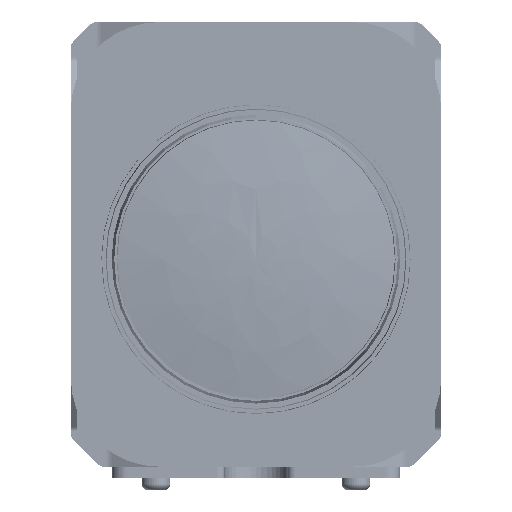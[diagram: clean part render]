
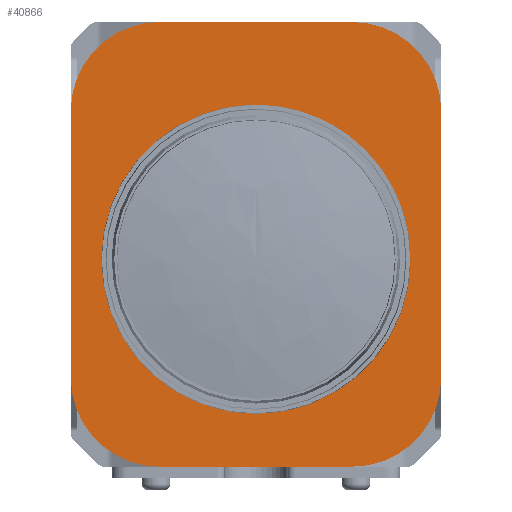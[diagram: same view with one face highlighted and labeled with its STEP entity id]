
A CAD part, left-side view. The second image highlights one B-rep face of the part: STEP entity #40866.
In plain terms, the highlighted planar face has unit normal (-1, 0, 0) as drawn and (1, 0, 0) by its records, which use the part's own axes.
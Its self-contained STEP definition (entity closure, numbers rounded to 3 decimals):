
#40866 = ADVANCED_FACE( '', ( #74108, #74109 ), #74110, .T. );
#74108 = FACE_BOUND( '', #105905, .T. );
#74109 = FACE_OUTER_BOUND( '', #105906, .T. );
#74110 = PLANE( '', #105907 );
#105905 = EDGE_LOOP( '', ( #169689 ) );
#105906 = EDGE_LOOP( '', ( #169690, #169691, #169692, #169693, #169694, #169695, #169696, #169697 ) );
#105907 = AXIS2_PLACEMENT_3D( '', #169698, #169699, #169700 );
#169689 = ORIENTED_EDGE( '', *, *, #191395, .F. );
#169690 = ORIENTED_EDGE( '', *, *, #191090, .T. );
#169691 = ORIENTED_EDGE( '', *, *, #185346, .T. );
#169692 = ORIENTED_EDGE( '', *, *, #197139, .T. );
#169693 = ORIENTED_EDGE( '', *, *, #192159, .T. );
#169694 = ORIENTED_EDGE( '', *, *, #197018, .T. );
#169695 = ORIENTED_EDGE( '', *, *, #199977, .T. );
#169696 = ORIENTED_EDGE( '', *, *, #198316, .T. );
#169697 = ORIENTED_EDGE( '', *, *, #200710, .T. );
#169698 = CARTESIAN_POINT( '', ( 42.95, 0., 0. ) );
#169699 = DIRECTION( '', ( 1., 0., 0. ) );
#169700 = DIRECTION( '', ( 0., 0., -1. ) );
#185346 = EDGE_CURVE( '', #216165, #216167, #216169, .T. );
#191090 = EDGE_CURVE( '', #225429, #216165, #225430, .T. );
#191395 = EDGE_CURVE( '', #225897, #225897, #225898, .T. );
#192159 = EDGE_CURVE( '', #227019, #227021, #227023, .T. );
#197018 = EDGE_CURVE( '', #227021, #233893, #233895, .T. );
#197139 = EDGE_CURVE( '', #216167, #227019, #234054, .T. );
#198316 = EDGE_CURVE( '', #235587, #235585, #235588, .T. );
#199977 = EDGE_CURVE( '', #233893, #235587, #237644, .T. );
#200710 = EDGE_CURVE( '', #235585, #225429, #238512, .T. );
#216165 = VERTEX_POINT( '', #259084 );
#216167 = VERTEX_POINT( '', #259087 );
#216169 = CIRCLE( '', #259090, 12. );
#225429 = VERTEX_POINT( '', #272548 );
#225430 = LINE( '', #272549, #272550 );
#225897 = VERTEX_POINT( '', #273213 );
#225898 = CIRCLE( '', #273214, 20.1 );
#227019 = VERTEX_POINT( '', #274882 );
#227021 = VERTEX_POINT( '', #274885 );
#227023 = CIRCLE( '', #274888, 12. );
#233893 = VERTEX_POINT( '', #285028 );
#233895 = LINE( '', #285031, #285032 );
#234054 = LINE( '', #285270, #285271 );
#235585 = VERTEX_POINT( '', #287456 );
#235587 = VERTEX_POINT( '', #287459 );
#235588 = LINE( '', #287460, #287461 );
#237644 = CIRCLE( '', #290499, 12. );
#238512 = CIRCLE( '', #291755, 12. );
#259084 = CARTESIAN_POINT( '', ( 42.95, 24.995, 47.995 ) );
#259087 = CARTESIAN_POINT( '', ( 42.95, 12.995, 59.995 ) );
#259090 = AXIS2_PLACEMENT_3D( '', #304441, #304442, #304443 );
#272548 = CARTESIAN_POINT( '', ( 42.95, 24.995, 12.005 ) );
#272549 = CARTESIAN_POINT( '', ( 42.95, 24.995, 0.005 ) );
#272550 = VECTOR( '', #310268, 1000. );
#273213 = CARTESIAN_POINT( '', ( 42.95, 0., 7.9 ) );
#273214 = AXIS2_PLACEMENT_3D( '', #310613, #310614, #310615 );
#274882 = CARTESIAN_POINT( '', ( 42.95, -12.995, 59.995 ) );
#274885 = CARTESIAN_POINT( '', ( 42.95, -24.995, 47.995 ) );
#274888 = AXIS2_PLACEMENT_3D( '', #311369, #311370, #311371 );
#285028 = CARTESIAN_POINT( '', ( 42.95, -24.995, 12.005 ) );
#285031 = CARTESIAN_POINT( '', ( 42.95, -24.995, 59.995 ) );
#285032 = VECTOR( '', #316284, 1000. );
#285270 = CARTESIAN_POINT( '', ( 42.95, 24.995, 59.995 ) );
#285271 = VECTOR( '', #316391, 1000. );
#287456 = CARTESIAN_POINT( '', ( 42.95, 12.995, 0.005 ) );
#287459 = CARTESIAN_POINT( '', ( 42.95, -12.995, 0.005 ) );
#287460 = CARTESIAN_POINT( '', ( 42.95, -24.995, 0.005 ) );
#287461 = VECTOR( '', #317582, 1000. );
#290499 = AXIS2_PLACEMENT_3D( '', #319013, #319014, #319015 );
#291755 = AXIS2_PLACEMENT_3D( '', #319614, #319615, #319616 );
#304441 = CARTESIAN_POINT( '', ( 42.95, 12.995, 47.995 ) );
#304442 = DIRECTION( '', ( 1., 0., 0. ) );
#304443 = DIRECTION( '', ( 0., 0., -1. ) );
#310268 = DIRECTION( '', ( 0., 0., 1. ) );
#310613 = CARTESIAN_POINT( '', ( 42.95, 0., 28. ) );
#310614 = DIRECTION( '', ( 1., 0., 0. ) );
#310615 = DIRECTION( '', ( 0., 0., -1. ) );
#311369 = CARTESIAN_POINT( '', ( 42.95, -12.995, 47.995 ) );
#311370 = DIRECTION( '', ( 1., 0., 0. ) );
#311371 = DIRECTION( '', ( 0., 0., -1. ) );
#316284 = DIRECTION( '', ( 0., 0., -1. ) );
#316391 = DIRECTION( '', ( 0., -1., 0. ) );
#317582 = DIRECTION( '', ( 0., 1., 0. ) );
#319013 = CARTESIAN_POINT( '', ( 42.95, -12.995, 12.005 ) );
#319014 = DIRECTION( '', ( 1., 0., 0. ) );
#319015 = DIRECTION( '', ( 0., 0., -1. ) );
#319614 = CARTESIAN_POINT( '', ( 42.95, 12.995, 12.005 ) );
#319615 = DIRECTION( '', ( 1., 0., 0. ) );
#319616 = DIRECTION( '', ( 0., 0., -1. ) );
